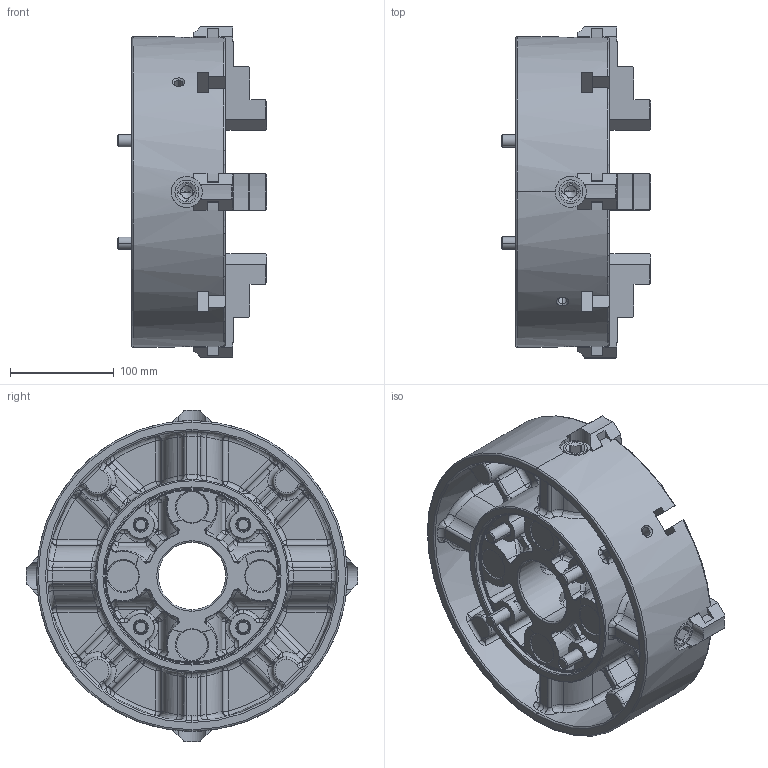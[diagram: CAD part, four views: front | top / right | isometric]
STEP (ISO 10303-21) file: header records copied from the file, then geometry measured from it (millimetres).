
FILE_DESCRIPTION (( 'STEP AP214' ), '1' );
FILE_NAME ('IC-12_61T203810-8.STEP', '2025-11-14T06:04:19', ( '' ), ( '' ), 'SwSTEP 2.0', 'SolidWorks 2022', '' );
FILE_SCHEMA (( 'AUTOMOTIVE_DESIGN' ));
Length unit declared in the file: millimetre
Products named in the file (4): 61T301347-0_ツメ; IC-12_61T203810-8; 0030112090; IC-12_ホンタイ提出用
Assembly tree (9 placements, depth 2):
  IC-12_61T203810-8
    61T301347-0_ツメ  x4
    0030112090  x4
    IC-12_ホンタイ提出用
Bounding box: 144 x 320.58 x 320.58 mm (x, y, z)
Volume: 3990793.3 mm3; surface area: 571909.3 mm2
Topology: 9 solids, 9 shells, 1767 faces, 4532 edges, 2737 vertices
Faces by surface type: plane 619, cylinder 408, bspline 265, torus 170, cone 168, sphere 137
Entity records: 61807 total; most frequent: CARTESIAN_POINT 25160, ORIENTED_EDGE 7936, DIRECTION 7354, EDGE_CURVE 3968, AXIS2_PLACEMENT_3D 2871, VERTEX_POINT 2420, EDGE_LOOP 1660, LINE 1612
